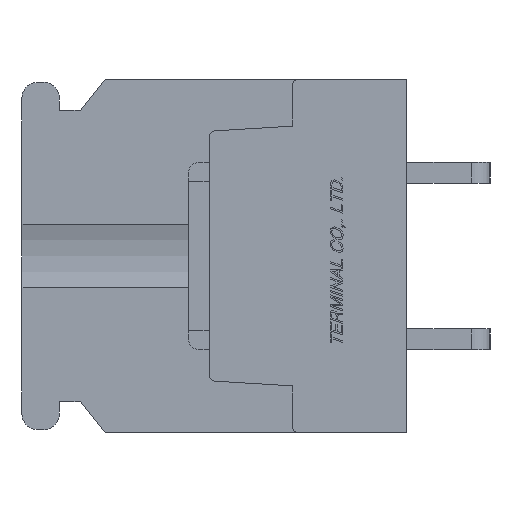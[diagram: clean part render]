
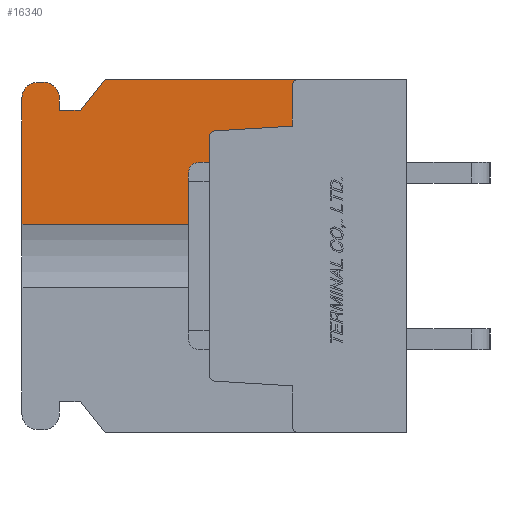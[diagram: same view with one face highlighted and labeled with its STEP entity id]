
A CAD part, left-side view. The second image highlights one B-rep face of the part: STEP entity #16340.
In plain terms, the highlighted planar face has unit normal (-1, 0, 0).
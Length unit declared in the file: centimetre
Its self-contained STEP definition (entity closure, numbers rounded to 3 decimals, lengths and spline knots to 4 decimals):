
#1486=VECTOR('',#18869,1.);
#1488=VECTOR('',#18872,1.);
#1490=VECTOR('',#18879,1.);
#1491=VECTOR('',#18880,1.);
#1492=VECTOR('',#18881,1.);
#1493=VECTOR('',#18882,1.);
#1494=VECTOR('',#18883,1.);
#1495=VECTOR('',#18886,1.);
#1496=VECTOR('',#18889,1.);
#1497=VECTOR('',#18890,1.);
#3293=LINE('',#24505,#1486);
#3295=LINE('',#24509,#1488);
#3297=LINE('',#24515,#1490);
#3298=LINE('',#24517,#1491);
#3299=LINE('',#24519,#1492);
#3300=LINE('',#24521,#1493);
#3301=LINE('',#24523,#1494);
#3302=LINE('',#24527,#1495);
#3303=LINE('',#24531,#1496);
#3304=LINE('',#24533,#1497);
#5114=VERTEX_POINT('',#24498);
#5115=VERTEX_POINT('',#24500);
#5116=VERTEX_POINT('',#24504);
#5117=VERTEX_POINT('',#24508);
#5118=VERTEX_POINT('',#24512);
#5119=VERTEX_POINT('',#24516);
#5120=VERTEX_POINT('',#24518);
#5121=VERTEX_POINT('',#24520);
#5122=VERTEX_POINT('',#24522);
#5123=VERTEX_POINT('',#24524);
#5124=VERTEX_POINT('',#24526);
#5125=VERTEX_POINT('',#24528);
#5126=VERTEX_POINT('',#24530);
#5127=VERTEX_POINT('',#24532);
#6021=CIRCLE('',#27646,0.03);
#6022=CIRCLE('',#27650,0.03);
#6023=CIRCLE('',#27652,0.075);
#6024=CIRCLE('',#27653,0.075);
#7538=EDGE_CURVE('',#5115,#5114,#6021,.T.);
#7541=EDGE_CURVE('',#5114,#5116,#3293,.T.);
#7543=EDGE_CURVE('',#5116,#5117,#3295,.T.);
#7545=EDGE_CURVE('',#5117,#5118,#6022,.T.);
#7546=EDGE_CURVE('',#5119,#5115,#3297,.T.);
#7547=EDGE_CURVE('',#5120,#5118,#3298,.T.);
#7548=EDGE_CURVE('',#5121,#5120,#3299,.T.);
#7549=EDGE_CURVE('',#5122,#5121,#3300,.T.);
#7550=EDGE_CURVE('',#5123,#5122,#3301,.T.);
#7551=EDGE_CURVE('',#5124,#5123,#6023,.T.);
#7552=EDGE_CURVE('',#5125,#5124,#3302,.T.);
#7553=EDGE_CURVE('',#5126,#5125,#6024,.T.);
#7554=EDGE_CURVE('',#5127,#5126,#3303,.T.);
#7555=EDGE_CURVE('',#5127,#5119,#3304,.T.);
#11185=ORIENTED_EDGE('',*,*,#7546,.T.);
#11186=ORIENTED_EDGE('',*,*,#7538,.T.);
#11187=ORIENTED_EDGE('',*,*,#7541,.T.);
#11188=ORIENTED_EDGE('',*,*,#7543,.T.);
#11189=ORIENTED_EDGE('',*,*,#7545,.T.);
#11190=ORIENTED_EDGE('',*,*,#7547,.F.);
#11191=ORIENTED_EDGE('',*,*,#7548,.F.);
#11192=ORIENTED_EDGE('',*,*,#7549,.F.);
#11193=ORIENTED_EDGE('',*,*,#7550,.F.);
#11194=ORIENTED_EDGE('',*,*,#7551,.F.);
#11195=ORIENTED_EDGE('',*,*,#7552,.F.);
#11196=ORIENTED_EDGE('',*,*,#7553,.F.);
#11197=ORIENTED_EDGE('',*,*,#7554,.F.);
#11198=ORIENTED_EDGE('',*,*,#7555,.T.);
#14322=EDGE_LOOP('',(#11185,#11186,#11187,#11188,#11189,#11190,#11191,#11192,
#11193,#11194,#11195,#11196,#11197,#11198));
#15358=FACE_BOUND('',#14322,.T.);
#16340=ADVANCED_FACE('',(#15358),#17127,.F.);
#17127=PLANE('',#27651);
#18864=DIRECTION('',(1.,0.,0.));
#18865=DIRECTION('',(0.,0.,0.03));
#18869=DIRECTION('',(0.,-0.998,0.061));
#18872=DIRECTION('',(0.,0.,1.));
#18876=DIRECTION('',(1.,0.,0.));
#18877=DIRECTION('',(0.,0.,0.03));
#18878=DIRECTION('',(1.,0.,0.));
#18879=DIRECTION('',(0.,0.,1.));
#18880=DIRECTION('',(0.,-1.,0.));
#18881=DIRECTION('',(0.,-0.625,0.781));
#18882=DIRECTION('',(0.,-1.,0.));
#18883=DIRECTION('',(0.,0.,-1.));
#18884=DIRECTION('',(1.,0.,0.));
#18885=DIRECTION('',(0.,0.,-0.075));
#18886=DIRECTION('',(0.,-1.,0.));
#18887=DIRECTION('',(1.,0.,0.));
#18888=DIRECTION('',(0.,0.,-0.075));
#18889=DIRECTION('',(0.,0.,1.));
#18890=DIRECTION('',(0.,-1.,0.));
#24498=CARTESIAN_POINT('',(-1.1,0.9218,0.6017));
#24499=CARTESIAN_POINT('',(-1.1,0.92,0.5718));
#24500=CARTESIAN_POINT('',(-1.1,0.95,0.5718));
#24504=CARTESIAN_POINT('',(-1.1,0.55,0.6245));
#24505=CARTESIAN_POINT('',(-1.1,0.859,0.6056));
#24508=CARTESIAN_POINT('',(-1.1,0.55,0.82));
#24509=CARTESIAN_POINT('',(-1.1,0.55,0.3611));
#24512=CARTESIAN_POINT('',(-1.1,0.52,0.85));
#24513=CARTESIAN_POINT('',(-1.1,0.52,0.82));
#24514=CARTESIAN_POINT('',(-1.1,0.9454,0.));
#24515=CARTESIAN_POINT('',(-1.1,0.95,0.));
#24516=CARTESIAN_POINT('',(-1.1,0.95,0.1521));
#24517=CARTESIAN_POINT('',(-1.1,1.45,0.85));
#24518=CARTESIAN_POINT('',(-1.1,1.45,0.85));
#24519=CARTESIAN_POINT('',(-1.1,1.57,0.7));
#24520=CARTESIAN_POINT('',(-1.1,1.57,0.7));
#24521=CARTESIAN_POINT('',(-1.1,1.67,0.7));
#24522=CARTESIAN_POINT('',(-1.1,1.67,0.7));
#24523=CARTESIAN_POINT('',(-1.1,1.67,0.76));
#24524=CARTESIAN_POINT('',(-1.1,1.67,0.76));
#24525=CARTESIAN_POINT('',(-1.1,1.745,0.76));
#24526=CARTESIAN_POINT('',(-1.1,1.745,0.835));
#24527=CARTESIAN_POINT('',(-1.1,1.775,0.835));
#24528=CARTESIAN_POINT('',(-1.1,1.775,0.835));
#24529=CARTESIAN_POINT('',(-1.1,1.775,0.76));
#24530=CARTESIAN_POINT('',(-1.1,1.85,0.76));
#24531=CARTESIAN_POINT('',(-1.1,1.85,-0.76));
#24532=CARTESIAN_POINT('',(-1.1,1.85,0.1521));
#24533=CARTESIAN_POINT('',(-1.1,1.4,0.1521));
#27646=AXIS2_PLACEMENT_3D('',#24499,#18864,#18865);
#27650=AXIS2_PLACEMENT_3D('',#24513,#18876,#18877);
#27651=AXIS2_PLACEMENT_3D('',#24514,#18878,$);
#27652=AXIS2_PLACEMENT_3D('',#24525,#18884,#18885);
#27653=AXIS2_PLACEMENT_3D('',#24529,#18887,#18888);
